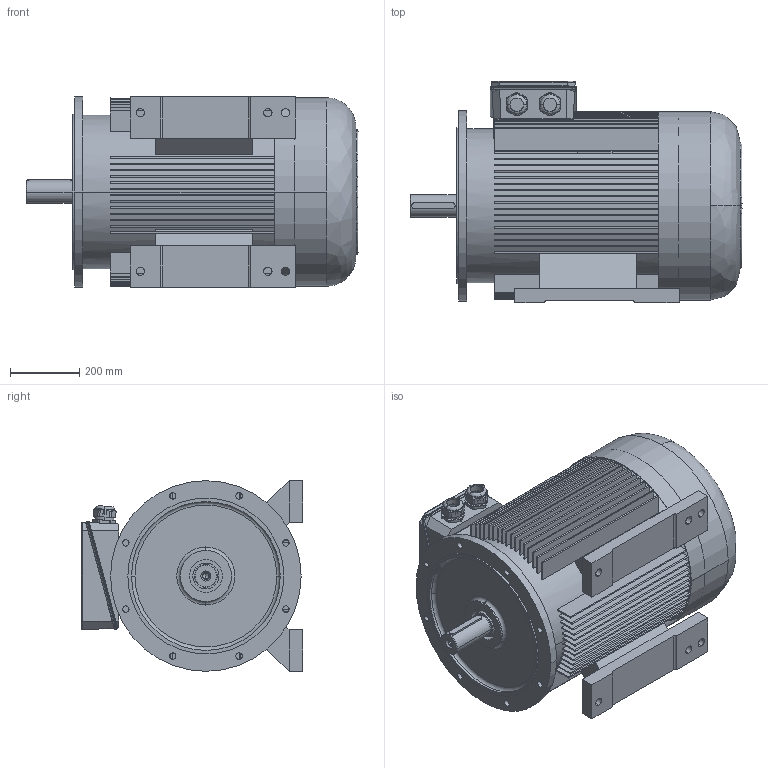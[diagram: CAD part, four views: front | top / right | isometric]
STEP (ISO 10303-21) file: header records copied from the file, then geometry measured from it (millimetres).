
FILE_DESCRIPTION (( 'STEP AP203' ), '1' );
FILE_NAME ('GM 280 M (2) AYAKLI VE FLANSLI (BICIM A-B35).stp', '2019-10-10T13:12:57', ( '' ), ( '' ), 'SwSTEP 2.0', 'SolidWorks 2019', '' );
FILE_SCHEMA (( 'CONFIG_CONTROL_DESIGN' ));
Length unit declared in the file: millimetre
Products named in the file (9): PG42 RAKOR; ~PART1; PART1; GM 280 M (2) AYAKLI VE FLANSLI (BICIM A-B35); ~PART1_3; ~PART1_2
Assembly tree (11 placements, depth 4):
  GM 280 M (2) AYAKLI VE FLANSLI (BICIM A-B35)
    PART1
    PG42 RAKOR
      ~PART1
        ~PART1
        ~PART1_3
        ~PART1_2
    PG42 RAKOR
      ~PART1
        ~PART1
        ~PART1_3
        ~PART1_2
Bounding box: 958 x 640 x 550 mm (x, y, z)
Volume: 163187711.4 mm3; surface area: 5612198.7 mm2
Topology: 7 solids, 7 shells, 1249 faces, 3115 edges, 1970 vertices
Faces by surface type: plane 659, cylinder 417, cone 100, bspline 63, torus 10
Entity records: 35734 total; most frequent: CARTESIAN_POINT 7753, DIRECTION 5683, ORIENTED_EDGE 5568, EDGE_CURVE 2784, AXIS2_PLACEMENT_3D 1950, LINE 1783, VECTOR 1783, VERTEX_POINT 1781
